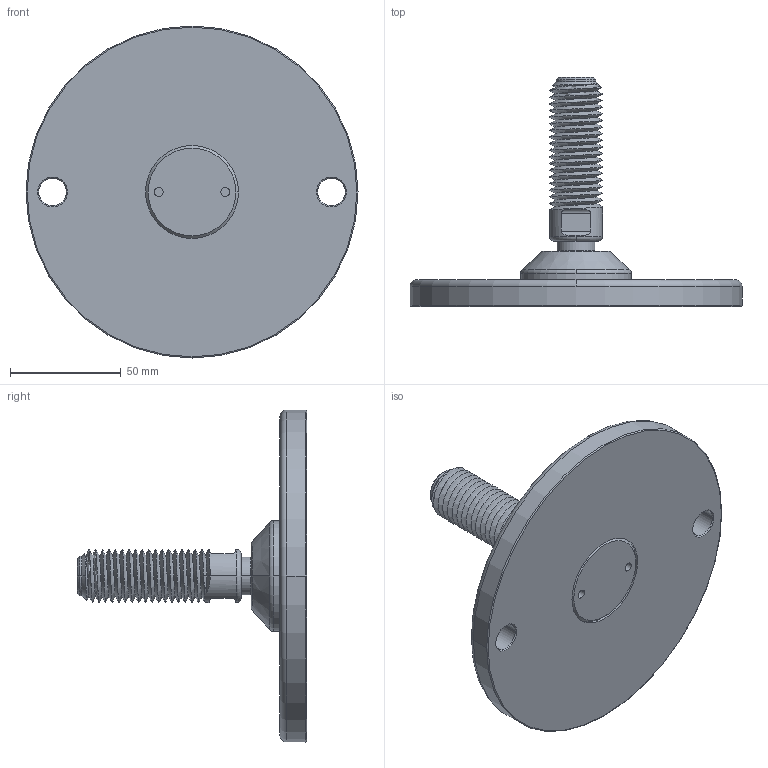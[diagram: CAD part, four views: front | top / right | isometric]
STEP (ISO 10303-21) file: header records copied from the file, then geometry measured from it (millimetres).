
FILE_DESCRIPTION((''),'1');
FILE_NAME('LALAL_M24.step','2024-06-10T15:20:24',(''),(''),'','','');
FILE_SCHEMA(('AUTOMOTIVE_DESIGN { 1 0 10303 214 1 1 1 1 }'));
Products named in the file (6): LALAL M24; LALAL part 02; LALAL O-ring 01; LALAL part 04; LALAL part 05; LALAL part 06
Assembly tree (5 placements, depth 2):
  LALAL M24
    LALAL part 02
    LALAL O-ring 01
    LALAL part 04
    LALAL part 05
    LALAL part 06
Bounding box: 150 x 103.5 x 150 mm (x, y, z)
Volume: 253264.2 mm3; surface area: 59359 mm2
Topology: 5 solids, 5 shells, 97 faces, 219 edges, 138 vertices
Faces by surface type: cylinder 36, cone 21, plane 20, torus 16, sphere 2, bspline 2
Entity records: 7042 total; most frequent: CARTESIAN_POINT 4637, DIRECTION 524, ORIENTED_EDGE 430, AXIS2_PLACEMENT_3D 230, EDGE_CURVE 215, VERTEX_POINT 138, CIRCLE 127, EDGE_LOOP 113
